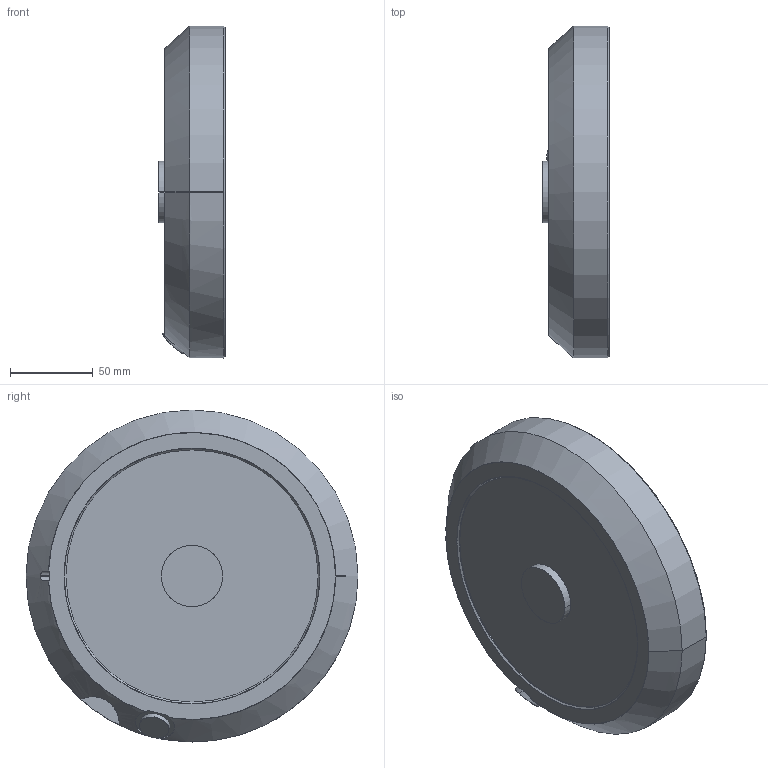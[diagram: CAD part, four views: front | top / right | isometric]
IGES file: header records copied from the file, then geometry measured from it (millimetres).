
Start section: SolidWorks IGES file using analytic representation for surfaces
Global section: file name: B:\Robotics\SEROP_PROJ\Product Development\DevelopmentProjects\RobCal\Design\CAD simuleringsmodeller\Till_RobotStudio\IRB6700-HL\IRB6700_235-265_IRC5_rev02\IRB6700_235-265_IRC5_rev02_IGES_j\IRB6700_235-265_IRC5_rev02_LINK06_CAD.IGS; native system: SolidWorks 2014; preprocessor: SolidWorks 2014; author: SEEMTHE; date: 160127.112441; units: millimetre
Bounding box: 40 x 200 x 200 mm (x, y, z)
Surface area: 99324.8 mm2 (no closed solid volume)
Topology: 0 solids, 0 shells, 133 faces, 1712 edges, 1688 vertices
Faces by surface type: revolution 116, bspline 17
